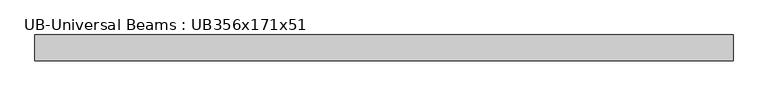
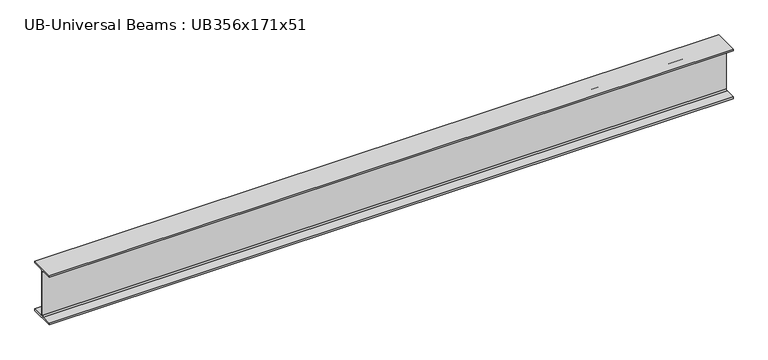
"""IFC4 building model written with IfcOpenShell, lengths in millimetres: beam geometry, UB-Universal Beams : UB356x171x51."""

from ifc_helpers import new_model, si_unit, point, frame, frame_2d, origin, place, context, project, spatial, polyline, circle_curve, trimmed, segment, composite_curve, outline, extrude, source, transform, mapped, element, save


def ub_universal_beams_ub356x171x51_68db896e(model_context):
    return source(origin(), model_context, "Body", "SweptSolid", [
        extrude(outline(composite_curve([segment(polyline([(85.75, -166.0), (85.75, -177.5), (-85.75, -177.5), (-85.75, -166.0), (-13.9, -166.0)]), True, "CONTINUOUS"), segment(trimmed(circle_curve(frame_2d((-13.9, -155.8)), 10.2), [point((-13.9, -166.0))], [point((-3.7, -155.8))], True, "CARTESIAN"), True, "CONTINUOUS"), segment(polyline([(-3.7, -155.8), (-3.7, 155.8)]), True, "CONTINUOUS"), segment(trimmed(circle_curve(frame_2d((-13.9, 155.8)), 10.2), [point((-3.7, 155.8))], [point((-13.9, 166.0))], True, "CARTESIAN"), True, "CONTINUOUS"), segment(polyline([(-13.9, 166.0), (-85.75, 166.0), (-85.75, 177.5), (85.75, 177.5), (85.75, 166.0), (13.9, 166.0)]), True, "CONTINUOUS"), segment(trimmed(circle_curve(frame_2d((13.9, 155.8)), 10.2), [point((13.9, 166.0))], [point((3.7, 155.8))], True, "CARTESIAN"), True, "CONTINUOUS"), segment(polyline([(3.7, 155.8), (3.7, -155.8)]), True, "CONTINUOUS"), segment(trimmed(circle_curve(frame_2d((13.9, -155.8)), 10.2), [point((3.7, -155.8))], [point((13.9, -166.0))], True, "CARTESIAN"), True, "CONTINUOUS"), segment(polyline([(13.9, -166.0), (85.75, -166.0)]), True, "CONTINUOUS")], self_intersect=False)), frame((-2302.4, 0.0, 0.0), z_axis=(1.0, 0.0, 0.0), x_axis=(0.0, 1.0, 0.0)), (0.0, 0.0, 1.0), 4663.2),
    ])


if __name__ == "__main__":
    model = new_model("IFC4")
    model_context = context("Model", 3, world=origin())
    ifc_project = project(units=[si_unit("LENGTHUNIT", "METRE", prefix="MILLI")], contexts=[model_context])
    site = spatial("IfcSite", under=ifc_project)
    building = spatial("IfcBuilding", under=site)
    placement = place(None, origin())
    ub_universal_beams_ub356x171x51_shape = ub_universal_beams_ub356x171x51_68db896e(model_context)
    element("IfcBeam", 1, ObjectType="UB-Universal Beams : UB356x171x51", at=placement, inside=building, context=model_context, shape_type="MappedRepresentation", body=[
        mapped(ub_universal_beams_ub356x171x51_shape, transform((0.0, 0.0, 0.0), x_axis=(1.0, 0.0, 0.0), y_axis=(0.0, 1.0, 0.0), z_axis=(0.0, 0.0, 1.0))),
    ])
    save(model, "model.ifc")
